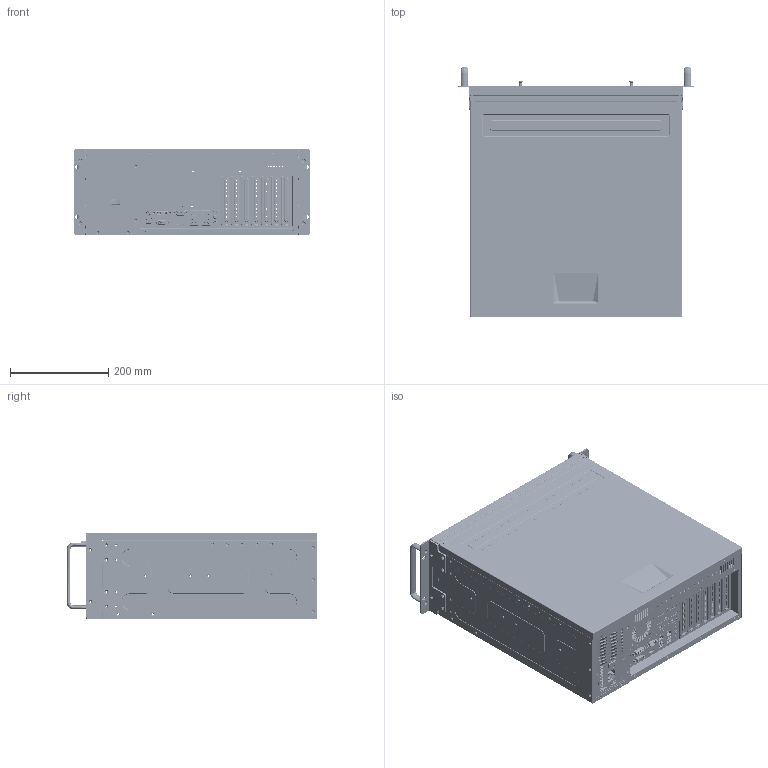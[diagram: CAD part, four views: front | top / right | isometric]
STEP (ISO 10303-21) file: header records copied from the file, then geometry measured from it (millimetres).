
FILE_DESCRIPTION(/* description */ (''),/* implementation_level */ '2;1');
FILE_NAME(/* name */ 'HRC-UA xinbu',/* time_stamp */ '2025-08-06T16:06:00+08:00',/* author */ (''),/* organization */ (''),/* preprocessor_version */ 'ST-DEVELOPER v19.2',/* originating_system */ 'Rhino 8.9',/* authorisation */ '');
FILE_SCHEMA (('AUTOMOTIVE_DESIGN'));
Products named in the file (10): Document; PS2+USB2x2_LOTES; DVI-up+DB15FM-down_slim; DB9M_1Port-High; 图块 03; HDMI_1Port-normal-SMD_RE; RJ45+USB30X2_foxconn; 图块 02; PHONE_3port-normal; 图块 01
Bounding box: 481.6 x 510.4 x 176 mm (x, y, z)
Volume: 808675.2 mm3; surface area: 1950782.8 mm2
Topology: 133 solids, 156 shells, 23802 faces, 68088 edges, 44153 vertices
Faces by surface type: plane 17064, cylinder 5397, bspline 1341
Entity records: 807675 total; most frequent: CARTESIAN_POINT 329092, ORIENTED_EDGE 130688, EDGE_CURVE 65422, B_SPLINE_CURVE_WITH_KNOTS 58567, VERTEX_POINT 42541, DIRECTION 34650, AXIS2_PLACEMENT_3D 28086, EDGE_LOOP 25629
